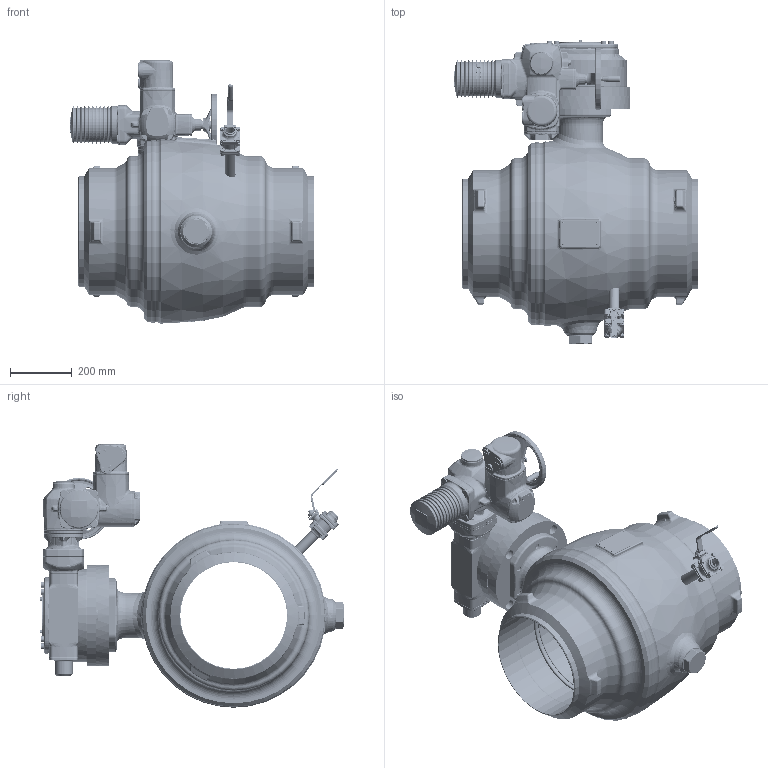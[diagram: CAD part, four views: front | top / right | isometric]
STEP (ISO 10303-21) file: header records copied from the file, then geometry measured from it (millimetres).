
FILE_DESCRIPTION((''),'2;1');
FILE_NAME('ASM0001_ASM','2026-01-28T10:51:32',('schwaba'),('KLINGER'),'CREO PARAMETRIC BY PTC INC, 2023014','CREO PARAMETRIC BY PTC INC, 2023014','');
FILE_SCHEMA(('CONFIG_CONTROL_DESIGN'));
Length unit declared in the file: millimetre
Products named in the file (4): KHSVI_350_FR_WE_ENTL; GS125_F25_F10_DN400; SA10_2_F10_STD; ASM0001_ASM
Assembly tree (3 placements, depth 2):
  ASM0001_ASM
    KHSVI_350_FR_WE_ENTL
    GS125_F25_F10_DN400
    SA10_2_F10_STD
Bounding box: 788.61 x 979 x 850.11 mm (x, y, z)
Volume: 74872027.5 mm3; surface area: 6262055.2 mm2
Topology: 10 solids, 11 shells, 6010 faces, 14265 edges, 8410 vertices
Faces by surface type: plane 1528, cylinder 1398, bspline 1129, torus 1007, cone 779, sphere 98, extrusion 50, revolution 21
Entity records: 345660 total; most frequent: CARTESIAN_POINT 216472, ORIENTED_EDGE 28296, DIRECTION 25221, EDGE_CURVE 14148, AXIS2_PLACEMENT_3D 10643, VERTEX_POINT 8410, EDGE_LOOP 6364, FACE_OUTER_BOUND 6010
